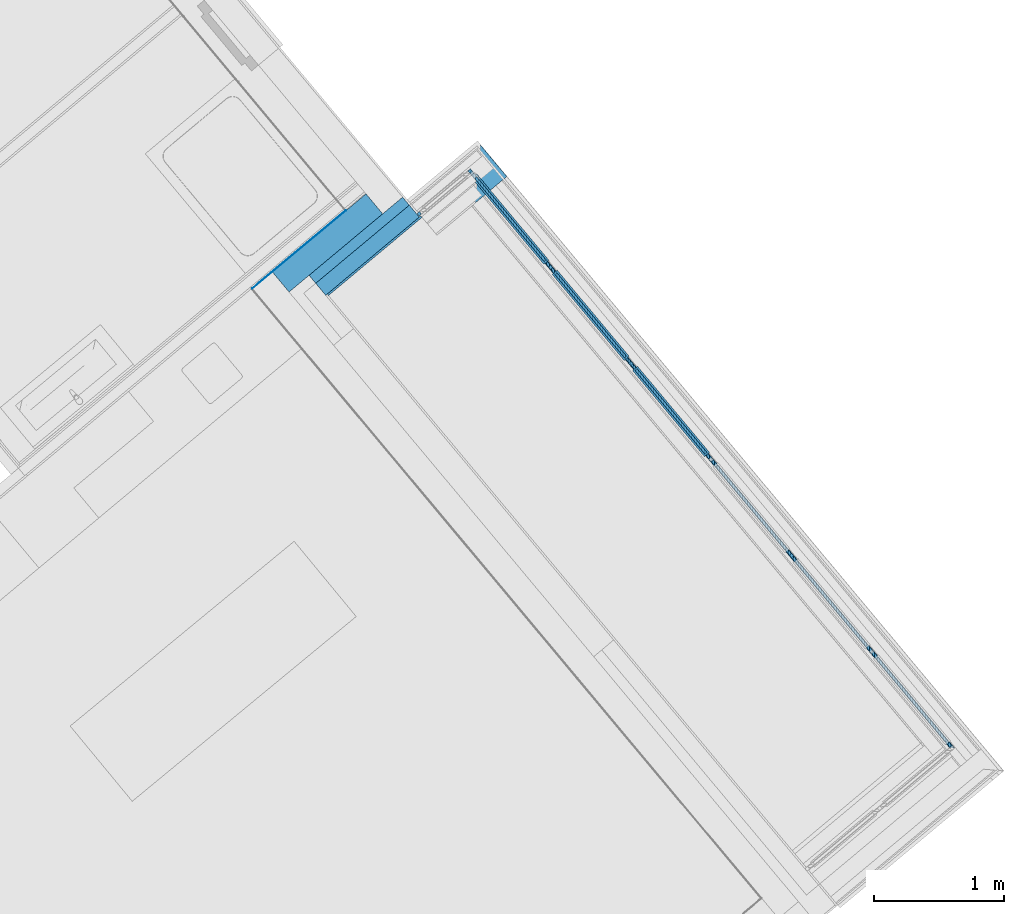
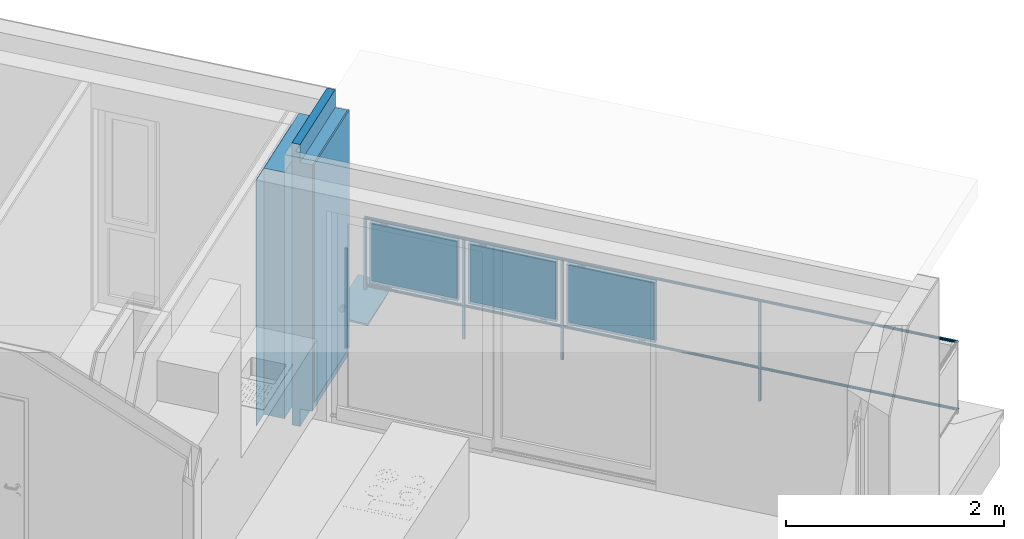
# One storey, part 36 of 50: 18 building element parts, 3 elements without a shape of their own.
"""IFC4 building model written with IfcOpenShell, lengths in metres."""

from ifc_helpers import new_model, entity, si_unit, converted_unit, derived_unit, direction, frame, origin_with_axes, place, context, subcontext, project, spatial, polygons, material, type_object, element, aggregate, save


model = new_model("IFC4")

# Units and contexts
model_context = context("Model", 3, precision=1e-05, world=origin_with_axes(), true_north=direction((0.0, 1.0)))
body_context = subcontext(model_context, "Body", "Model", "MODEL_VIEW")
ifc_project = project(units=[si_unit("LENGTHUNIT", "METRE"), si_unit("AREAUNIT", "SQUARE_METRE"), si_unit("VOLUMEUNIT", "CUBIC_METRE"), converted_unit("PLANEANGLEUNIT", "DEGREE", entity("IfcPlaneAngleMeasure", 0.0174532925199), si_unit("PLANEANGLEUNIT", "RADIAN"), dimensions=[0, 0, 0, 0, 0, 0, 0]), converted_unit("TIMEUNIT", "Year", entity("IfcTimeMeasure", 31556926.0), si_unit("TIMEUNIT", "SECOND"), dimensions=[0, 0, 1, 0, 0, 0, 0]), si_unit("MASSUNIT", "GRAM", prefix="KILO"), si_unit("THERMODYNAMICTEMPERATUREUNIT", "DEGREE_CELSIUS"), si_unit("LUMINOUSINTENSITYUNIT", "LUMEN"), si_unit("ENERGYUNIT", "JOULE", prefix="MEGA"), derived_unit("THERMALCONDUCTANCEUNIT", [(si_unit("POWERUNIT", "WATT"), 1), (si_unit("LENGTHUNIT", "METRE"), -1), (si_unit("THERMODYNAMICTEMPERATUREUNIT", "KELVIN"), -1)]), derived_unit("SPECIFICHEATCAPACITYUNIT", [(si_unit("ENERGYUNIT", "JOULE"), 1), (si_unit("MASSUNIT", "GRAM", prefix="KILO"), -1), (si_unit("THERMODYNAMICTEMPERATUREUNIT", "KELVIN"), -1)]), derived_unit("MASSDENSITYUNIT", [(si_unit("MASSUNIT", "GRAM", prefix="KILO"), 1), (si_unit("VOLUMEUNIT", "CUBIC_METRE"), -1)])], contexts=[model_context])

# Site, building, storey
site_placement = place(None, frame((-0.00153261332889, -0.00661245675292, 0.0), z_axis=(0.0, 0.0, 1.0), x_axis=(1.0, 0.0, 0.0)))
site = spatial("IfcSite", under=ifc_project, at=site_placement, Name="Site", CompositionType="ELEMENT")
building_placement = place(site_placement, origin_with_axes())
building = spatial("IfcBuilding", under=site, at=building_placement, Name="Building", CompositionType="ELEMENT")
storey_placement = place(building_placement, frame((0.0, 0.0, 2.74), z_axis=(0.0, 0.0, 1.0), x_axis=(1.0, 0.0, 0.0)))
storey = spatial("IfcBuildingStorey", under=building, at=storey_placement, Name="OG1", CompositionType="ELEMENT", Elevation=2.74)

# Wall, building element parts
wall_type_1 = type_object("IfcWallType", Name="AW EG 420", PredefinedType="NOTDEFINED")
wall_1_placement = place(storey_placement, frame((9.48027034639, 24.9670510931, -0.2), z_axis=(0.0, 0.0, 1.0), x_axis=(0.767365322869, 0.641210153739, 0.0)))
wall_1 = element("IfcWall", 1, at=wall_1_placement, inside=storey, type_object=wall_type_1, Name="Wand-002", PredefinedType="NOTDEFINED")
ifc_material_1 = material(Name="Zementputz")
building_element_part_1_placement = place(wall_1_placement, origin_with_axes())
building_element_part_1 = element("IfcBuildingElementPart", 2, at=building_element_part_1_placement, material=ifc_material_1, Name="Zementputz", PredefinedType="NOTDEFINED", context=body_context, shape_type="Tessellation", body=[
    polygons([(0.5232139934, 0.42, 2.96), (0.523214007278, 0.415, 2.96), (0.523214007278, 0.415, 0.2), (0.5232139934, 0.42, 0.2), (-0.414999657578, 0.415, 2.96), (-0.414999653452, 0.42, 2.96), (-0.414999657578, 0.415, 0.2), (-0.414999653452, 0.42, 0.2)], [[[1, 2, 3, 4]], [[5, 2, 1, 6]], [[2, 5, 7, 3]], [[4, 3, 7, 8]], [[6, 1, 4, 8]], [[5, 6, 8, 7]]], closed=True),
])
ifc_material_2 = material(Name="Stahlbeton Wand")
building_element_part_2_placement = place(wall_1_placement, origin_with_axes())
building_element_part_2 = element("IfcBuildingElementPart", 3, at=building_element_part_2_placement, material=ifc_material_2, Name="Stahlbeton Wand", PredefinedType="NOTDEFINED", context=body_context, shape_type="Tessellation", body=[
    polygons([(0.723214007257, 0.415, 2.96), (0.723214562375, 0.214999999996, 2.96), (0.723214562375, 0.214999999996, 0.2), (0.723214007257, 0.415, 0.2), (-0.214999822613, 0.21499999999, 2.96), (-0.214999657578, 0.415, 2.96), (-0.214999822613, 0.21499999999, 0.2), (-0.214999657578, 0.415, 0.2)], [[[1, 2, 3, 4]], [[5, 2, 1, 6]], [[2, 5, 7, 3]], [[4, 3, 7, 8]], [[6, 1, 4, 8]], [[5, 6, 8, 7]]], closed=True),
])
ifc_material_3 = material(Name="EPS 1")
building_element_part_3_placement = place(wall_1_placement, origin_with_axes())
building_element_part_3 = element("IfcBuildingElementPart", 4, at=building_element_part_3_placement, material=ifc_material_3, Name="EPS 1", PredefinedType="NOTDEFINED", context=body_context, shape_type="Tessellation", body=[
    polygons([(0.923214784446, 0.134999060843, 3.16), (0.923214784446, 0.134999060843, 2.96), (0.923215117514, 0.015, 2.96), (0.923215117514, 0.015, 0.2), (0.923214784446, 0.134999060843, 0.2), (0.923214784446, 0.134999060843, 0.0), (0.923214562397, 0.215, 0.0), (0.923214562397, 0.215, 3.16), (-0.0149998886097, 0.13499983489, 3.16), (-0.0149998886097, 0.13499983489, 2.96), (-0.0149999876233, 0.015, 2.96), (-0.0149999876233, 0.015, 0.2), (-0.0149998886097, 0.13499983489, 0.2), (-0.0149998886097, 0.13499983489, 0.0), (-0.0149998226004, 0.215, 0.0), (-0.0149998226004, 0.215, 3.16)], [[[1, 2, 3, 4, 5, 6, 7, 8]], [[2, 1, 9, 10]], [[11, 3, 2, 10]], [[3, 11, 12, 4]], [[5, 4, 12, 13]], [[6, 5, 13, 14]], [[6, 14, 15, 7]], [[8, 7, 15, 16]], [[9, 1, 8, 16]], [[10, 9, 16, 15, 14, 13, 12, 11]]], closed=True),
])
building_element_part_4_placement = place(wall_1_placement, origin_with_axes())
building_element_part_4 = element("IfcBuildingElementPart", 5, at=building_element_part_4_placement, material=ifc_material_1, Name="Zementputz", PredefinedType="NOTDEFINED", context=body_context, shape_type="Tessellation", body=[
    polygons([(0.0, 0.0, 0.3), (0.938215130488, -1.09238307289e-08, 0.3), (0.938215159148, 0.0, 2.96), (0.0, 0.0, 2.96), (0.938215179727, 0.0149991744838, 0.3), (1.23767058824e-08, 0.0149999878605, 0.3), (0.938215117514, 0.015, 2.96), (1.23767200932e-08, 0.015, 2.96)], [[[1, 2, 3, 4]], [[5, 2, 1, 6]], [[2, 5, 7, 3]], [[4, 3, 7, 8]], [[6, 1, 4, 8]], [[5, 6, 8, 7]]], closed=True),
])
aggregate(wall_1, [building_element_part_1, building_element_part_2, building_element_part_3, building_element_part_4])

# Wall, building element part
wall_type_2 = type_object("IfcWallType", Name="Bauteil - Attika Balkon 356 x 610", PredefinedType="NOTDEFINED")
wall_2_placement = place(storey_placement, frame((10.2419035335, 25.5187648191, -0.2), z_axis=(0.0, 0.0, 1.0), x_axis=(0.767364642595, 0.641210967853, 0.0)))
wall_2 = element("IfcWall", 6, at=wall_2_placement, inside=storey, type_object=wall_type_2, Name="Wand-003", PredefinedType="NOTDEFINED")
ifc_material_4 = material(Name="Holzwerkstoff")
building_element_part_5_placement = place(wall_2_placement, origin_with_axes())
building_element_part_5 = element("IfcBuildingElementPart", 7, at=building_element_part_5_placement, material=ifc_material_4, Name="Holzwerkstoff", PredefinedType="NOTDEFINED", context=body_context, shape_type="Tessellation", body=[
    polygons([(0.701652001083, 0.239720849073, 0.595846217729), (0.701649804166, -0.112247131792, 0.595846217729), (0.701928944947, -0.111967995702, 0.587852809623), (0.701931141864, 0.239999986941, 0.587852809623), (0.701207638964, 0.23927649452, 0.608570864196), (0.592053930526, -0.111834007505, 0.584015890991), (0.651913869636, -0.11190700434, 0.586106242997), (0.0, -0.112247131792, 0.5958462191), (0.0, -0.111539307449, 0.575576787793), (0.350389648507, -0.111539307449, 0.575576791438), (0.471961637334, -0.111687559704, 0.579822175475), (0.532071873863, -0.111760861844, 0.581921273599), (0.651915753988, 0.189984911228, 0.586106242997), (0.0, 0.23999998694, 0.587852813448), (0.0, 0.23927649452, 0.608570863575), (0.592055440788, 0.13012497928, 0.584015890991), (0.0, 0.189984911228, 0.586106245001), (0.0, 0.13012497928, 0.584015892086), (0.0, 0.0701429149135, 0.581921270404), (0.0, 0.0100326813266, 0.579822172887), (0.471962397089, 0.0100326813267, 0.579822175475), (0.532073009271, 0.0701429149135, 0.581921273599)], [[[1, 2, 3, 4]], [[5, 2, 1]], [[6, 7, 3, 2, 8, 9, 10, 11, 12]], [[13, 4, 3, 7]], [[5, 1, 4, 14, 15]], [[2, 5, 15, 8]], [[6, 16, 13, 7]], [[15, 14, 17, 18, 19, 20, 9, 8]], [[21, 10, 9, 20]], [[11, 10, 21]], [[12, 11, 21, 22]], [[16, 6, 12, 22]], [[17, 14, 4, 13]], [[13, 16, 18, 17]], [[22, 19, 18, 16]], [[21, 20, 19, 22]]], closed=True),
])
aggregate(wall_2, [building_element_part_5])

# Railing, building element parts
railing_type = type_object("IfcRailingType", Name="Geländerart", PredefinedType="NOTDEFINED")
railing_placement = place(storey_placement, frame((13.1317464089, 20.5971564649, 0.38), z_axis=(0.0, 0.0, 1.0), x_axis=(1.0, 0.0, 0.0)))
railing = element("IfcRailing", 8, at=railing_placement, inside=storey, type_object=railing_type, Name="Geländer - 001", PredefinedType="NOTDEFINED")
ifc_material_5 = material(Name="Aluminium")
building_element_part_6_placement = place(railing_placement, origin_with_axes())
building_element_part_6 = element("IfcBuildingElementPart", 9, at=building_element_part_6_placement, material=ifc_material_5, Name="Aluminium", PredefinedType="NOTDEFINED", context=body_context, shape_type="Tessellation", body=[
    polygons([(-2.55954974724, 5.34420731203, -0.3), (-2.57873396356, 5.32817715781, -0.3), (-2.57873396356, 5.32817715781, 0.82), (-2.55954974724, 5.34420731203, 0.82), (-2.54351959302, 5.32502309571, -0.3), (-2.56270380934, 5.30899294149, -0.3), (-2.56270380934, 5.30899294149, 0.82), (-2.54351959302, 5.32502309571, 0.82)], [[[1, 2, 3, 4]], [[1, 5, 6, 2]], [[2, 6, 7, 3]], [[4, 3, 7, 8]], [[5, 1, 4, 8]], [[6, 5, 8, 7]]], closed=True),
])
building_element_part_7_placement = place(railing_placement, origin_with_axes())
building_element_part_7 = element("IfcBuildingElementPart", 10, at=building_element_part_7_placement, material=ifc_material_5, Name="Aluminium", PredefinedType="NOTDEFINED", context=body_context, shape_type="Tessellation", body=[
    polygons([(-2.97157121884, 4.99992169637, -0.3), (-2.95554094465, 4.98073758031, -0.3), (-2.95554094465, 4.98073758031, 0.82), (-2.97157121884, 4.99992169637, 0.82), (-2.95238710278, 5.01595197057, -0.3), (-2.93635682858, 4.9967678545, -0.3), (-2.93635682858, 4.9967678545, 0.82), (-2.95238710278, 5.01595197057, 0.82)], [[[1, 2, 3, 4]], [[1, 5, 6, 2]], [[2, 6, 7, 3]], [[4, 3, 7, 8]], [[5, 1, 4, 8]], [[6, 5, 8, 7]]], closed=True),
])
building_element_part_8_placement = place(railing_placement, origin_with_axes())
building_element_part_8 = element("IfcBuildingElementPart", 11, at=building_element_part_8_placement, material=ifc_material_5, Name="Aluminium", PredefinedType="NOTDEFINED", context=body_context, shape_type="Tessellation", body=[
    polygons([(1.12370408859, 0.893355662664, 0.825), (1.12402507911, 0.893326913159, 0.827604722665), (-2.56299040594, 5.30579242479, 0.827604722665), (-2.5630191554, 5.30547143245, 0.825), (1.12402507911, 0.893326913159, 0.822395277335), (1.12497829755, 0.893241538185, 0.81986969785), (1.12653478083, 0.893102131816, 0.8175), (1.128647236, 0.892912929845, 0.815358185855), (1.13125147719, 0.892679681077, 0.813509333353), (1.13426837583, 0.892409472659, 0.812009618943), (1.137606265, 0.892110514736, 0.810904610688), (1.14116372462, 0.891791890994, 0.810227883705), (1.14483266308, 0.891463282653, 0.81), (1.14850160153, 0.891134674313, 0.810227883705), (1.15205906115, 0.890816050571, 0.810904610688), (1.15539695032, 0.890517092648, 0.812009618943), (1.15841384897, 0.89024688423, 0.813509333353), (1.16101809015, 0.890013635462, 0.815358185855), (1.16313054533, 0.889824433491, 0.8175), (1.16468702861, 0.889685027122, 0.81986969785), (1.16564024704, 0.889599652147, 0.822395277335), (1.16596123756, 0.889570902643, 0.825), (1.16564024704, 0.889599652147, 0.827604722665), (1.16468702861, 0.889685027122, 0.83013030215), (1.16313054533, 0.889824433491, 0.8325), (1.16101809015, 0.890013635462, 0.834641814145), (1.15841384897, 0.89024688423, 0.836490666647), (1.15539695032, 0.890517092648, 0.837990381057), (1.15205906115, 0.890816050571, 0.839095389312), (1.14850160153, 0.891134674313, 0.839772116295), (1.14483266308, 0.891463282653, 0.84), (1.14116372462, 0.891791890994, 0.839772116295), (1.137606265, 0.892110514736, 0.839095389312), (1.13426837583, 0.892409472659, 0.837990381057), (1.13125147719, 0.892679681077, 0.836490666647), (1.128647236, 0.892912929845, 0.834641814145), (1.12653478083, 0.893102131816, 0.8325), (1.12497829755, 0.893241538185, 0.83013030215), (-2.56290503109, 5.30674564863, 0.83013030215), (-2.56276562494, 5.30830214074, 0.8325), (-2.56257642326, 5.31041460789, 0.834641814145), (-2.56234317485, 5.31301886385, 0.836490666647), (-2.56207296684, 5.31603577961, 0.837990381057), (-2.56177400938, 5.3193736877, 0.839095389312), (-2.56145538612, 5.3229311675, 0.839772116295), (-2.56112677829, 5.32660012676, 0.84), (-2.56079817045, 5.33026908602, 0.839772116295), (-2.5604795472, 5.33382656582, 0.839095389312), (-2.56018058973, 5.33716447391, 0.837990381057), (-2.55991038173, 5.34018138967, 0.836490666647), (-2.55967713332, 5.34278564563, 0.834641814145), (-2.55948793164, 5.34489811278, 0.8325), (-2.55934852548, 5.34645460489, 0.83013030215), (-2.55926315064, 5.34740782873, 0.827604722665), (-2.55923440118, 5.34772882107, 0.825), (-2.55926315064, 5.34740782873, 0.822395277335), (-2.55934852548, 5.34645460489, 0.81986969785), (-2.55948793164, 5.34489811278, 0.8175), (-2.55967713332, 5.34278564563, 0.815358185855), (-2.55991038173, 5.34018138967, 0.813509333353), (-2.56018058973, 5.33716447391, 0.812009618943), (-2.5604795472, 5.33382656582, 0.810904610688), (-2.56079817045, 5.33026908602, 0.810227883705), (-2.56112677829, 5.32660012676, 0.81), (-2.56145538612, 5.3229311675, 0.810227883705), (-2.56177400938, 5.3193736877, 0.810904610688), (-2.56207296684, 5.31603577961, 0.812009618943), (-2.56234317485, 5.31301886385, 0.813509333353), (-2.56257642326, 5.31041460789, 0.815358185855), (-2.56276562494, 5.30830214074, 0.8175), (-2.56290503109, 5.30674564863, 0.81986969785), (-2.56299040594, 5.30579242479, 0.822395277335)], [[[1, 2, 3, 4]], [[1, 5, 6, 7, 8, 9, 10, 11, 12, 13, 14, 15, 16, 17, 18, 19, 20, 21, 22, 23, 24, 25, 26, 27, 28, 29, 30, 31, 32, 33, 34, 35, 36, 37, 38, 2]], [[2, 38, 39, 3]], [[4, 3, 39, 40, 41, 42, 43, 44, 45, 46, 47, 48, 49, 50, 51, 52, 53, 54, 55, 56, 57, 58, 59, 60, 61, 62, 63, 64, 65, 66, 67, 68, 69, 70, 71, 72]], [[5, 1, 4, 72]], [[6, 5, 72, 71]], [[7, 6, 71, 70]], [[8, 7, 70, 69]], [[9, 8, 69, 68]], [[10, 9, 68, 67]], [[11, 10, 67, 66]], [[12, 11, 66, 65]], [[13, 12, 65, 64]], [[14, 13, 64, 63]], [[15, 14, 63, 62]], [[16, 15, 62, 61]], [[17, 16, 61, 60]], [[18, 17, 60, 59]], [[19, 18, 59, 58]], [[20, 19, 58, 57]], [[21, 20, 57, 56]], [[22, 21, 56, 55]], [[23, 22, 55, 54]], [[24, 23, 54, 53]], [[25, 24, 53, 52]], [[26, 25, 52, 51]], [[27, 26, 51, 50]], [[28, 27, 50, 49]], [[29, 28, 49, 48]], [[30, 29, 48, 47]], [[31, 30, 47, 46]], [[32, 31, 46, 45]], [[33, 32, 45, 44]], [[34, 33, 44, 43]], [[35, 34, 43, 42]], [[36, 35, 42, 41]], [[37, 36, 41, 40]], [[38, 37, 40, 39]]], closed=True),
])
building_element_part_9_placement = place(railing_placement, origin_with_axes())
building_element_part_9 = element("IfcBuildingElementPart", 12, at=building_element_part_9_placement, material=ifc_material_5, Name="Aluminium", PredefinedType="NOTDEFINED", context=body_context, shape_type="Tessellation", body=[
    polygons([(1.12370408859, 0.893355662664, 0.07), (1.12402507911, 0.893326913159, 0.072604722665), (-2.56299040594, 5.30579242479, 0.072604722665), (-2.5630191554, 5.30547143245, 0.07), (1.12402507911, 0.893326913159, 0.067395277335), (1.12497829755, 0.893241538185, 0.0648696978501), (1.12653478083, 0.893102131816, 0.0625), (1.128647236, 0.892912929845, 0.0603581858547), (1.13125147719, 0.892679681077, 0.0585093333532), (1.13426837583, 0.892409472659, 0.0570096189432), (1.137606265, 0.892110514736, 0.0559046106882), (1.14116372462, 0.891791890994, 0.0552278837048), (1.14483266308, 0.891463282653, 0.055), (1.14850160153, 0.891134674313, 0.0552278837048), (1.15205906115, 0.890816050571, 0.0559046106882), (1.15539695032, 0.890517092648, 0.0570096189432), (1.15841384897, 0.89024688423, 0.0585093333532), (1.16101809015, 0.890013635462, 0.0603581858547), (1.16313054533, 0.889824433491, 0.0625), (1.16468702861, 0.889685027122, 0.0648696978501), (1.16564024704, 0.889599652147, 0.067395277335), (1.16596123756, 0.889570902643, 0.07), (1.16564024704, 0.889599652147, 0.072604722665), (1.16468702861, 0.889685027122, 0.0751303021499), (1.16313054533, 0.889824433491, 0.0775), (1.16101809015, 0.890013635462, 0.0796418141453), (1.15841384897, 0.89024688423, 0.0814906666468), (1.15539695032, 0.890517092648, 0.0829903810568), (1.15205906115, 0.890816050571, 0.0840953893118), (1.14850160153, 0.891134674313, 0.0847721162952), (1.14483266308, 0.891463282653, 0.085), (1.14116372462, 0.891791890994, 0.0847721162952), (1.137606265, 0.892110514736, 0.0840953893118), (1.13426837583, 0.892409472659, 0.0829903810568), (1.13125147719, 0.892679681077, 0.0814906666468), (1.128647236, 0.892912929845, 0.0796418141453), (1.12653478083, 0.893102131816, 0.0775), (1.12497829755, 0.893241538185, 0.0751303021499), (-2.56290503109, 5.30674564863, 0.0751303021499), (-2.56276562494, 5.30830214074, 0.0775), (-2.56257642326, 5.31041460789, 0.0796418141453), (-2.56234317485, 5.31301886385, 0.0814906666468), (-2.56207296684, 5.31603577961, 0.0829903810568), (-2.56177400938, 5.3193736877, 0.0840953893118), (-2.56145538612, 5.3229311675, 0.0847721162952), (-2.56112677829, 5.32660012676, 0.085), (-2.56079817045, 5.33026908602, 0.0847721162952), (-2.5604795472, 5.33382656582, 0.0840953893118), (-2.56018058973, 5.33716447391, 0.0829903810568), (-2.55991038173, 5.34018138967, 0.0814906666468), (-2.55967713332, 5.34278564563, 0.0796418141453), (-2.55948793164, 5.34489811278, 0.0775), (-2.55934852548, 5.34645460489, 0.0751303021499), (-2.55926315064, 5.34740782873, 0.072604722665), (-2.55923440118, 5.34772882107, 0.07), (-2.55926315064, 5.34740782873, 0.067395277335), (-2.55934852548, 5.34645460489, 0.0648696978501), (-2.55948793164, 5.34489811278, 0.0625), (-2.55967713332, 5.34278564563, 0.0603581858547), (-2.55991038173, 5.34018138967, 0.0585093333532), (-2.56018058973, 5.33716447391, 0.0570096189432), (-2.5604795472, 5.33382656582, 0.0559046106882), (-2.56079817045, 5.33026908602, 0.0552278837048), (-2.56112677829, 5.32660012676, 0.055), (-2.56145538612, 5.3229311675, 0.0552278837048), (-2.56177400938, 5.3193736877, 0.0559046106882), (-2.56207296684, 5.31603577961, 0.0570096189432), (-2.56234317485, 5.31301886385, 0.0585093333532), (-2.56257642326, 5.31041460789, 0.0603581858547), (-2.56276562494, 5.30830214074, 0.0625), (-2.56290503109, 5.30674564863, 0.0648696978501), (-2.56299040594, 5.30579242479, 0.067395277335)], [[[1, 2, 3, 4]], [[1, 5, 6, 7, 8, 9, 10, 11, 12, 13, 14, 15, 16, 17, 18, 19, 20, 21, 22, 23, 24, 25, 26, 27, 28, 29, 30, 31, 32, 33, 34, 35, 36, 37, 38, 2]], [[2, 38, 39, 3]], [[4, 3, 39, 40, 41, 42, 43, 44, 45, 46, 47, 48, 49, 50, 51, 52, 53, 54, 55, 56, 57, 58, 59, 60, 61, 62, 63, 64, 65, 66, 67, 68, 69, 70, 71, 72]], [[5, 1, 4, 72]], [[6, 5, 72, 71]], [[7, 6, 71, 70]], [[8, 7, 70, 69]], [[9, 8, 69, 68]], [[10, 9, 68, 67]], [[11, 10, 67, 66]], [[12, 11, 66, 65]], [[13, 12, 65, 64]], [[14, 13, 64, 63]], [[15, 14, 63, 62]], [[16, 15, 62, 61]], [[17, 16, 61, 60]], [[18, 17, 60, 59]], [[19, 18, 59, 58]], [[20, 19, 58, 57]], [[21, 20, 57, 56]], [[22, 21, 56, 55]], [[23, 22, 55, 54]], [[24, 23, 54, 53]], [[25, 24, 53, 52]], [[26, 25, 52, 51]], [[27, 26, 51, 50]], [[28, 27, 50, 49]], [[29, 28, 49, 48]], [[30, 29, 48, 47]], [[31, 30, 47, 46]], [[32, 31, 46, 45]], [[33, 32, 45, 44]], [[34, 33, 44, 43]], [[35, 34, 43, 42]], [[36, 35, 42, 41]], [[37, 36, 41, 40]], [[38, 37, 40, 39]]], closed=True),
])
building_element_part_10_placement = place(railing_placement, origin_with_axes())
building_element_part_10 = element("IfcBuildingElementPart", 13, at=building_element_part_10_placement, material=ifc_material_5, Name="Aluminium", PredefinedType="NOTDEFINED", context=body_context, shape_type="Tessellation", body=[
    polygons([(-0.0889101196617, 2.38744941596, -0.3), (-0.10809433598, 2.37141926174, -0.3), (-0.10809433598, 2.37141926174, 0.82), (-0.0889101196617, 2.38744941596, 0.82), (-0.0728799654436, 2.36826519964, -0.3), (-0.0920641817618, 2.35223504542, -0.3), (-0.0920641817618, 2.35223504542, 0.82), (-0.0728799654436, 2.36826519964, 0.82)], [[[1, 2, 3, 4]], [[1, 5, 6, 2]], [[2, 6, 7, 3]], [[4, 3, 7, 8]], [[5, 1, 4, 8]], [[6, 5, 8, 7]]], closed=True),
])
ifc_material_6 = material(Name="Profilit")
building_element_part_11_placement = place(railing_placement, origin_with_axes())
building_element_part_11 = element("IfcBuildingElementPart", 14, at=building_element_part_11_placement, material=ifc_material_6, Name="Profilit", PredefinedType="NOTDEFINED", context=body_context, shape_type="Tessellation", body=[
    polygons([(-1.29180225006, 3.79193015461, 0.135), (-0.7574991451, 3.15249860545, 0.135), (-0.7574991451, 3.15249860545, 0.775), (-1.29180225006, 3.79193015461, 0.775), (-0.742151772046, 3.16532272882, 0.135), (-1.27645487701, 3.80475427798, 0.135), (-0.742151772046, 3.16532272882, 0.775), (-1.27645487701, 3.80475427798, 0.775)], [[[1, 2, 3, 4]], [[5, 2, 1, 6]], [[7, 3, 2, 5]], [[4, 3, 7, 8]], [[1, 4, 8, 6]], [[7, 5, 6, 8]]], closed=True),
])
building_element_part_12_placement = place(railing_placement, origin_with_axes())
building_element_part_12 = element("IfcBuildingElementPart", 15, at=building_element_part_12_placement, material=ifc_material_5, Name="Aluminium", PredefinedType="NOTDEFINED", context=body_context, shape_type="Tessellation", body=[
    polygons([(-0.806246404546, 3.22253398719, 0.12), (-0.851130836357, 3.27624979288, 0.12), (-0.851130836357, 3.27624979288, 0.095), (-0.806246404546, 3.22253398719, 0.095), (-0.802409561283, 3.22574001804, 0.12), (-0.847293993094, 3.27945582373, 0.12), (-0.847293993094, 3.27945582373, 0.095), (-0.802409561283, 3.22574001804, 0.095)], [[[1, 2, 3, 4]], [[5, 6, 2, 1]], [[2, 6, 7, 3]], [[4, 3, 7, 8]], [[1, 4, 8, 5]], [[8, 7, 6, 5]]], closed=True),
    polygons([(-1.23154446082, 3.73151286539, 0.79), (-1.18666002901, 3.6777970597, 0.79), (-1.18666002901, 3.6777970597, 0.795), (-1.23154446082, 3.73151286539, 0.795), (-1.22770761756, 3.73471889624, 0.79), (-1.18282318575, 3.68100309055, 0.79), (-1.18282318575, 3.68100309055, 0.795), (-1.22770761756, 3.73471889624, 0.795)], [[[1, 2, 3, 4]], [[5, 6, 2, 1]], [[2, 6, 7, 3]], [[4, 3, 7, 8]], [[1, 4, 8, 5]], [[8, 7, 6, 5]]], closed=True),
    polygons([(-0.721023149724, 3.16343029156, 0.12), (-0.75939158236, 3.13136998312, 0.12), (-1.31293087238, 3.79382259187, 0.12), (-1.27456243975, 3.82588290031, 0.12), (-0.733847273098, 3.17877766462, 0.14), (-0.745357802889, 3.16915957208, 0.14), (-0.742151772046, 3.16532272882, 0.135), (-0.7574991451, 3.15249860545, 0.135), (-0.760705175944, 3.15633544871, 0.14), (-0.772215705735, 3.14671735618, 0.14), (-1.30010674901, 3.77847521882, 0.14), (-1.30010674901, 3.77847521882, 0.77), (-0.772215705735, 3.14671735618, 0.77), (-0.772215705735, 3.14671735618, 0.14), (-0.75939158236, 3.13136998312, 0.12), (-0.75939158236, 3.13136998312, 0.79), (-1.31293087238, 3.79382259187, 0.79), (-1.27456243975, 3.82588290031, 0.79), (-0.721023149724, 3.16343029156, 0.79), (-0.721023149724, 3.16343029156, 0.12), (-0.733847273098, 3.17877766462, 0.14), (-0.733847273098, 3.17877766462, 0.77), (-1.26173831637, 3.81053552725, 0.77), (-1.26173831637, 3.81053552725, 0.14), (-1.27324884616, 3.80091743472, 0.14), (-1.27324884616, 3.80091743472, 0.77), (-0.745357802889, 3.16915957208, 0.77), (-0.745357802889, 3.16915957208, 0.14), (-0.742151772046, 3.16532272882, 0.135), (-0.742151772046, 3.16532272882, 0.775), (-1.27645487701, 3.80475427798, 0.775), (-1.27645487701, 3.80475427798, 0.135), (-1.29180225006, 3.79193015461, 0.135), (-1.29180225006, 3.79193015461, 0.775), (-0.7574991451, 3.15249860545, 0.775), (-0.7574991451, 3.15249860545, 0.135), (-0.760705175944, 3.15633544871, 0.14), (-0.760705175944, 3.15633544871, 0.77), (-1.28859621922, 3.78809331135, 0.77), (-1.28859621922, 3.78809331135, 0.14)], [[[1, 2, 3, 4]], [[1, 5, 6, 7, 8, 9, 10, 2]], [[2, 10, 11, 12, 13, 14, 15, 16, 17, 3]], [[4, 3, 17, 18]], [[5, 1, 4, 18, 19, 20, 21, 22, 23, 24]], [[6, 5, 24, 25]], [[7, 6, 25, 26, 27, 28, 29, 30, 31, 32]], [[8, 7, 32, 33]], [[9, 8, 33, 34, 35, 36, 37, 38, 39, 40]], [[10, 9, 40, 11]], [[11, 40, 39, 12]], [[12, 39, 38, 13]], [[13, 38, 37, 14]], [[20, 15, 14, 37, 36, 29, 28, 21]], [[19, 16, 15, 20]], [[18, 17, 16, 19]], [[27, 22, 21, 28]], [[26, 23, 22, 27]], [[25, 24, 23, 26]], [[35, 30, 29, 36]], [[34, 31, 30, 35]], [[33, 32, 31, 34]]], closed=True),
])
building_element_part_13_placement = place(railing_placement, origin_with_axes())
building_element_part_13 = element("IfcBuildingElementPart", 16, at=building_element_part_13_placement, material=ifc_material_5, Name="Aluminium", PredefinedType="NOTDEFINED", context=body_context, shape_type="Tessellation", body=[
    polygons([(-1.32422993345, 3.86582836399, -0.3), (-1.34341414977, 3.84979820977, -0.3), (-1.34341414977, 3.84979820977, 0.82), (-1.32422993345, 3.86582836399, 0.82), (-1.30819977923, 3.84664414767, -0.3), (-1.32738399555, 3.83061399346, -0.3), (-1.32738399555, 3.83061399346, 0.82), (-1.30819977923, 3.84664414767, 0.82)], [[[1, 2, 3, 4]], [[1, 5, 6, 2]], [[2, 6, 7, 3]], [[4, 3, 7, 8]], [[5, 1, 4, 8]], [[6, 5, 8, 7]]], closed=True),
])
building_element_part_14_placement = place(railing_placement, origin_with_axes())
building_element_part_14 = element("IfcBuildingElementPart", 17, at=building_element_part_14_placement, material=ifc_material_6, Name="Profilit", PredefinedType="NOTDEFINED", context=body_context, shape_type="Tessellation", body=[
    polygons([(-1.90946215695, 4.53111962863, 0.135), (-1.37515905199, 3.89168807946, 0.135), (-1.37515905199, 3.89168807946, 0.775), (-1.90946215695, 4.53111962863, 0.775), (-1.35981167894, 3.90451220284, 0.135), (-1.8941147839, 4.543943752, 0.135), (-1.35981167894, 3.90451220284, 0.775), (-1.8941147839, 4.543943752, 0.775)], [[[1, 2, 3, 4]], [[5, 2, 1, 6]], [[7, 3, 2, 5]], [[4, 3, 7, 8]], [[1, 4, 8, 6]], [[7, 5, 6, 8]]], closed=True),
])
building_element_part_15_placement = place(railing_placement, origin_with_axes())
building_element_part_15 = element("IfcBuildingElementPart", 18, at=building_element_part_15_placement, material=ifc_material_5, Name="Aluminium", PredefinedType="NOTDEFINED", context=body_context, shape_type="Tessellation", body=[
    polygons([(-1.42390631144, 3.96172346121, 0.12), (-1.46879074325, 4.0154392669, 0.12), (-1.46879074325, 4.0154392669, 0.095), (-1.42390631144, 3.96172346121, 0.095), (-1.42006946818, 3.96492949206, 0.12), (-1.46495389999, 4.01864529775, 0.12), (-1.46495389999, 4.01864529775, 0.095), (-1.42006946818, 3.96492949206, 0.095)], [[[1, 2, 3, 4]], [[5, 6, 2, 1]], [[2, 6, 7, 3]], [[4, 3, 7, 8]], [[1, 4, 8, 5]], [[8, 7, 6, 5]]], closed=True),
    polygons([(-1.84920436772, 4.47070233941, 0.79), (-1.80431993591, 4.41698653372, 0.79), (-1.80431993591, 4.41698653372, 0.795), (-1.84920436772, 4.47070233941, 0.795), (-1.84536752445, 4.47390837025, 0.79), (-1.80048309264, 4.42019256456, 0.79), (-1.80048309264, 4.42019256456, 0.795), (-1.84536752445, 4.47390837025, 0.795)], [[[1, 2, 3, 4]], [[5, 6, 2, 1]], [[2, 6, 7, 3]], [[4, 3, 7, 8]], [[1, 4, 8, 5]], [[8, 7, 6, 5]]], closed=True),
    polygons([(-1.33868305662, 3.90261976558, 0.12), (-1.37705148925, 3.87055945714, 0.12), (-1.93059077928, 4.53301206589, 0.12), (-1.89222234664, 4.56507237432, 0.12), (-1.35150717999, 3.91796713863, 0.14), (-1.36301770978, 3.9083490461, 0.14), (-1.35981167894, 3.90451220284, 0.135), (-1.37515905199, 3.89168807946, 0.135), (-1.37836508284, 3.89552492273, 0.14), (-1.38987561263, 3.8859068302, 0.14), (-1.9177666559, 4.51766469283, 0.14), (-1.9177666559, 4.51766469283, 0.77), (-1.38987561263, 3.8859068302, 0.77), (-1.38987561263, 3.8859068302, 0.14), (-1.37705148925, 3.87055945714, 0.12), (-1.37705148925, 3.87055945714, 0.79), (-1.93059077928, 4.53301206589, 0.79), (-1.89222234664, 4.56507237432, 0.79), (-1.33868305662, 3.90261976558, 0.79), (-1.33868305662, 3.90261976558, 0.12), (-1.35150717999, 3.91796713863, 0.14), (-1.35150717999, 3.91796713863, 0.77), (-1.87939822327, 4.54972500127, 0.77), (-1.87939822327, 4.54972500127, 0.14), (-1.89090875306, 4.54010690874, 0.14), (-1.89090875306, 4.54010690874, 0.77), (-1.36301770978, 3.9083490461, 0.77), (-1.36301770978, 3.9083490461, 0.14), (-1.35981167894, 3.90451220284, 0.135), (-1.35981167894, 3.90451220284, 0.775), (-1.8941147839, 4.543943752, 0.775), (-1.8941147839, 4.543943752, 0.135), (-1.90946215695, 4.53111962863, 0.135), (-1.90946215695, 4.53111962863, 0.775), (-1.37515905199, 3.89168807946, 0.775), (-1.37515905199, 3.89168807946, 0.135), (-1.37836508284, 3.89552492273, 0.14), (-1.37836508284, 3.89552492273, 0.77), (-1.90625612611, 4.52728278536, 0.77), (-1.90625612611, 4.52728278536, 0.14)], [[[1, 2, 3, 4]], [[1, 5, 6, 7, 8, 9, 10, 2]], [[2, 10, 11, 12, 13, 14, 15, 16, 17, 3]], [[4, 3, 17, 18]], [[5, 1, 4, 18, 19, 20, 21, 22, 23, 24]], [[6, 5, 24, 25]], [[7, 6, 25, 26, 27, 28, 29, 30, 31, 32]], [[8, 7, 32, 33]], [[9, 8, 33, 34, 35, 36, 37, 38, 39, 40]], [[10, 9, 40, 11]], [[11, 40, 39, 12]], [[12, 39, 38, 13]], [[13, 38, 37, 14]], [[20, 15, 14, 37, 36, 29, 28, 21]], [[19, 16, 15, 20]], [[18, 17, 16, 19]], [[27, 22, 21, 28]], [[26, 23, 22, 27]], [[25, 24, 23, 26]], [[35, 30, 29, 36]], [[34, 31, 30, 35]], [[33, 32, 31, 34]]], closed=True),
])
building_element_part_16_placement = place(railing_placement, origin_with_axes())
building_element_part_16 = element("IfcBuildingElementPart", 19, at=building_element_part_16_placement, material=ifc_material_5, Name="Aluminium", PredefinedType="NOTDEFINED", context=body_context, shape_type="Tessellation", body=[
    polygons([(-1.94188984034, 4.60501783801, -0.3), (-1.96107405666, 4.58898768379, -0.3), (-1.96107405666, 4.58898768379, 0.82), (-1.94188984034, 4.60501783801, 0.82), (-1.92585968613, 4.58583362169, -0.3), (-1.94504390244, 4.56980346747, -0.3), (-1.94504390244, 4.56980346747, 0.82), (-1.92585968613, 4.58583362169, 0.82)], [[[1, 2, 3, 4]], [[1, 5, 6, 2]], [[2, 6, 7, 3]], [[4, 3, 7, 8]], [[5, 1, 4, 8]], [[6, 5, 8, 7]]], closed=True),
])
building_element_part_17_placement = place(railing_placement, origin_with_axes())
building_element_part_17 = element("IfcBuildingElementPart", 20, at=building_element_part_17_placement, material=ifc_material_6, Name="Profilit", PredefinedType="NOTDEFINED", context=body_context, shape_type="Tessellation", body=[
    polygons([(-2.52712206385, 5.27030910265, 0.135), (-1.99281895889, 4.63087755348, 0.135), (-1.99281895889, 4.63087755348, 0.775), (-2.52712206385, 5.27030910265, 0.775), (-1.97747158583, 4.64370167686, 0.135), (-2.51177469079, 5.28313322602, 0.135), (-1.97747158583, 4.64370167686, 0.775), (-2.51177469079, 5.28313322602, 0.775)], [[[1, 2, 3, 4]], [[5, 2, 1, 6]], [[7, 3, 2, 5]], [[4, 3, 7, 8]], [[1, 4, 8, 6]], [[7, 5, 6, 8]]], closed=True),
])
building_element_part_18_placement = place(railing_placement, origin_with_axes())
building_element_part_18 = element("IfcBuildingElementPart", 21, at=building_element_part_18_placement, material=ifc_material_5, Name="Aluminium", PredefinedType="NOTDEFINED", context=body_context, shape_type="Tessellation", body=[
    polygons([(-2.04156621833, 4.70091293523, 0.12), (-2.08645065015, 4.75462874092, 0.12), (-2.08645065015, 4.75462874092, 0.095), (-2.04156621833, 4.70091293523, 0.095), (-2.03772937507, 4.70411896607, 0.12), (-2.08261380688, 4.75783477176, 0.12), (-2.08261380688, 4.75783477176, 0.095), (-2.03772937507, 4.70411896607, 0.095)], [[[1, 2, 3, 4]], [[5, 6, 2, 1]], [[2, 6, 7, 3]], [[4, 3, 7, 8]], [[1, 4, 8, 5]], [[8, 7, 6, 5]]], closed=True),
    polygons([(-2.46686427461, 5.20989181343, 0.79), (-2.4219798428, 5.15617600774, 0.79), (-2.4219798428, 5.15617600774, 0.795), (-2.46686427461, 5.20989181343, 0.795), (-2.46302743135, 5.21309784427, 0.79), (-2.41814299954, 5.15938203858, 0.79), (-2.41814299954, 5.15938203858, 0.795), (-2.46302743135, 5.21309784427, 0.795)], [[[1, 2, 3, 4]], [[5, 6, 2, 1]], [[2, 6, 7, 3]], [[4, 3, 7, 8]], [[1, 4, 8, 5]], [[8, 7, 6, 5]]], closed=True),
    polygons([(-1.95634296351, 4.6418092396, 0.12), (-1.99471139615, 4.60974893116, 0.12), (-2.54825068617, 5.27220153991, 0.12), (-2.50988225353, 5.30426184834, 0.12), (-1.96916708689, 4.65715661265, 0.14), (-1.98067761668, 4.64753852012, 0.14), (-1.97747158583, 4.64370167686, 0.135), (-1.99281895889, 4.63087755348, 0.135), (-1.99602498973, 4.63471439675, 0.14), (-2.00753551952, 4.62509630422, 0.14), (-2.5354265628, 5.25685416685, 0.14), (-2.5354265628, 5.25685416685, 0.77), (-2.00753551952, 4.62509630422, 0.77), (-2.00753551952, 4.62509630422, 0.14), (-1.99471139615, 4.60974893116, 0.12), (-1.99471139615, 4.60974893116, 0.79), (-2.54825068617, 5.27220153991, 0.79), (-2.50988225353, 5.30426184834, 0.79), (-1.95634296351, 4.6418092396, 0.79), (-1.95634296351, 4.6418092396, 0.12), (-1.96916708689, 4.65715661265, 0.14), (-1.96916708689, 4.65715661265, 0.77), (-2.49705813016, 5.28891447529, 0.77), (-2.49705813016, 5.28891447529, 0.14), (-2.50856865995, 5.27929638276, 0.14), (-2.50856865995, 5.27929638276, 0.77), (-1.98067761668, 4.64753852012, 0.77), (-1.98067761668, 4.64753852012, 0.14), (-1.97747158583, 4.64370167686, 0.135), (-1.97747158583, 4.64370167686, 0.775), (-2.51177469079, 5.28313322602, 0.775), (-2.51177469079, 5.28313322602, 0.135), (-2.52712206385, 5.27030910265, 0.135), (-2.52712206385, 5.27030910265, 0.775), (-1.99281895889, 4.63087755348, 0.775), (-1.99281895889, 4.63087755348, 0.135), (-1.99602498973, 4.63471439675, 0.14), (-1.99602498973, 4.63471439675, 0.77), (-2.523916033, 5.26647225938, 0.77), (-2.523916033, 5.26647225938, 0.14)], [[[1, 2, 3, 4]], [[1, 5, 6, 7, 8, 9, 10, 2]], [[2, 10, 11, 12, 13, 14, 15, 16, 17, 3]], [[4, 3, 17, 18]], [[5, 1, 4, 18, 19, 20, 21, 22, 23, 24]], [[6, 5, 24, 25]], [[7, 6, 25, 26, 27, 28, 29, 30, 31, 32]], [[8, 7, 32, 33]], [[9, 8, 33, 34, 35, 36, 37, 38, 39, 40]], [[10, 9, 40, 11]], [[11, 40, 39, 12]], [[12, 39, 38, 13]], [[13, 38, 37, 14]], [[20, 15, 14, 37, 36, 29, 28, 21]], [[19, 16, 15, 20]], [[18, 17, 16, 19]], [[27, 22, 21, 28]], [[26, 23, 22, 27]], [[25, 24, 23, 26]], [[35, 30, 29, 36]], [[34, 31, 30, 35]], [[33, 32, 31, 34]]], closed=True),
])
aggregate(railing, [building_element_part_6, building_element_part_7, building_element_part_8, building_element_part_9, building_element_part_10, building_element_part_11, building_element_part_12, building_element_part_13, building_element_part_14, building_element_part_15, building_element_part_16, building_element_part_17, building_element_part_18])

save(model, "model.ifc")
